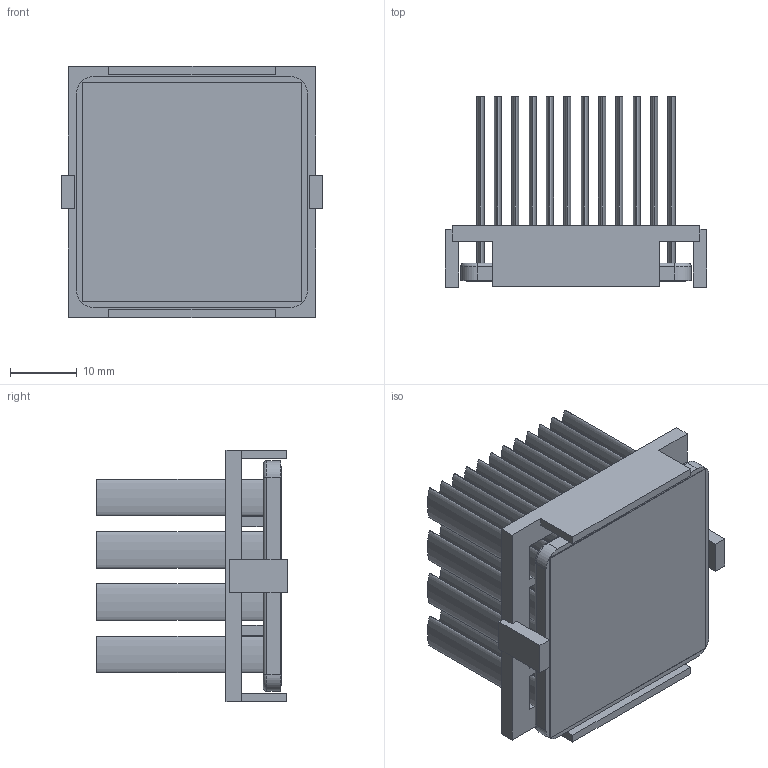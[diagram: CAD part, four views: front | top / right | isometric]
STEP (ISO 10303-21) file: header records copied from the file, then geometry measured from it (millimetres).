
FILE_DESCRIPTION (( 'STEP AP214' ), '1' );
FILE_NAME ('INM35001-28W-2.6O.STEP', '2023-02-20T22:35:49', ( '' ), ( '' ), 'SwSTEP 2.0', 'SolidWorks 2020', '' );
FILE_SCHEMA (( 'AUTOMOTIVE_DESIGN' ));
Length unit declared in the file: inch
Products named in the file (1): INM35001-28W-2.6O
Bounding box: 39.2 x 28.6 x 37.7 mm (x, y, z)
Volume: 10569.7 mm3; surface area: 21462.3 mm2
Topology: 3 solids, 3 shells, 222 faces, 496 edges, 328 vertices
Faces by surface type: plane 114, bspline 96, cylinder 8, torus 4
Entity records: 9276 total; most frequent: CARTESIAN_POINT 2295, ORIENTED_EDGE 992, DIRECTION 578, EDGE_CURVE 496, VERTEX_POINT 328, LINE 284, VECTOR 284, EDGE_LOOP 272
